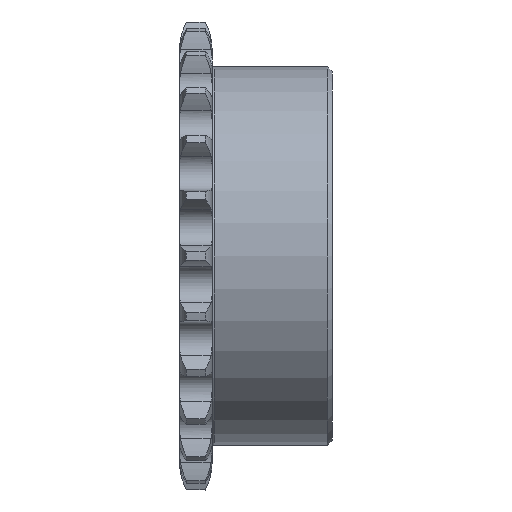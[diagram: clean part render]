
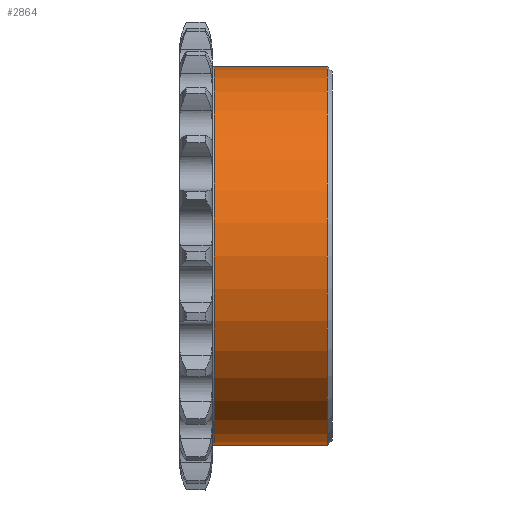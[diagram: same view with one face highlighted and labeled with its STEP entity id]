
A CAD part, front view. The second image highlights one B-rep face of the part: STEP entity #2864.
In plain terms, the highlighted cylindrical face has radius 31 mm (diameter 62 mm), a full revolution.
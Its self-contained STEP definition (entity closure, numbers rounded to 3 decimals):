
#23=FACE_BOUND('',#550,.T.);
#234=CIRCLE('',#3179,31.);
#235=CIRCLE('',#3181,31.);
#389=FACE_OUTER_BOUND('',#549,.T.);
#549=EDGE_LOOP('',(#2603));
#550=EDGE_LOOP('',(#2604));
#1247=VERTEX_POINT('',#5783);
#1248=VERTEX_POINT('',#5786);
#1701=EDGE_CURVE('',#1247,#1247,#234,.T.);
#1702=EDGE_CURVE('',#1248,#1248,#235,.T.);
#2603=ORIENTED_EDGE('',*,*,#1702,.F.);
#2604=ORIENTED_EDGE('',*,*,#1701,.T.);
#2710=CYLINDRICAL_SURFACE('',#3180,31.);
#2864=ADVANCED_FACE('',(#389,#23),#2710,.T.);
#3179=AXIS2_PLACEMENT_3D('',#5784,#3902,#3903);
#3180=AXIS2_PLACEMENT_3D('',#5785,#3904,#3905);
#3181=AXIS2_PLACEMENT_3D('',#5787,#3906,#3907);
#3902=DIRECTION('center_axis',(1.,0.,0.));
#3903=DIRECTION('ref_axis',(0.,0.,-1.));
#3904=DIRECTION('center_axis',(1.,0.,0.));
#3905=DIRECTION('ref_axis',(0.,1.,0.));
#3906=DIRECTION('center_axis',(1.,0.,0.));
#3907=DIRECTION('ref_axis',(0.,0.,-1.));
#5783=CARTESIAN_POINT('',(-8.458,20.277,0.));
#5784=CARTESIAN_POINT('Origin',(-8.458,-10.723,0.));
#5785=CARTESIAN_POINT('Origin',(0.792,-10.723,0.));
#5786=CARTESIAN_POINT('',(10.042,20.277,0.));
#5787=CARTESIAN_POINT('Origin',(10.042,-10.723,0.));
